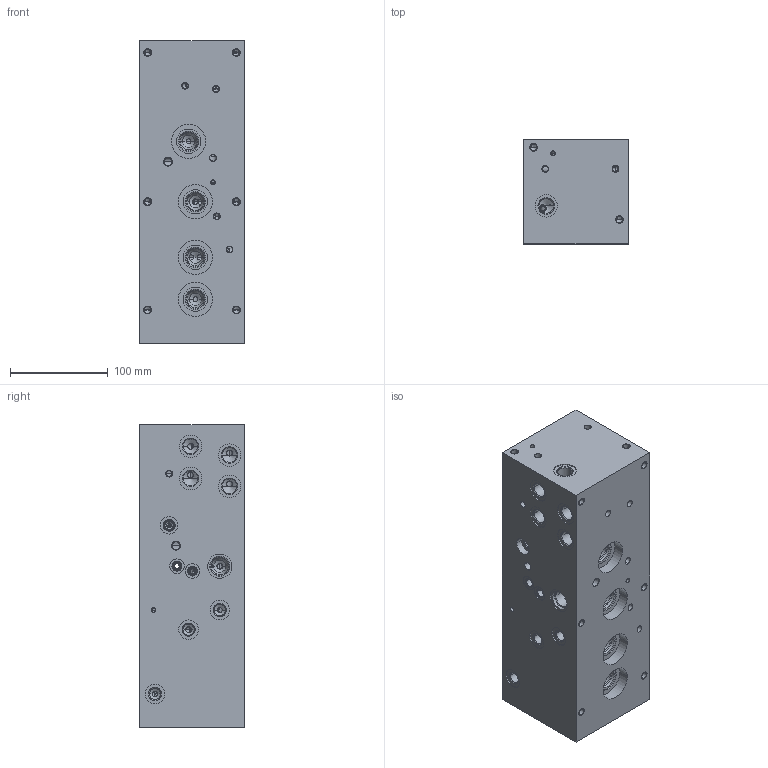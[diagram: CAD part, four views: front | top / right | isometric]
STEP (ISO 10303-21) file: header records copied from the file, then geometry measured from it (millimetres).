
FILE_DESCRIPTION((''),'2;1');
FILE_NAME('441341','2025-05-22T10:30:22',('PoolNonAdmin36220740'),(''),'CREO PARAMETRIC BY PTC INC, 2025010','CREO PARAMETRIC BY PTC INC, 2025010','');
FILE_SCHEMA(('AUTOMOTIVE_DESIGN { 1 0 10303 214 1 1 1 1 }'));
Products named in the file (1): 441341
Bounding box: 107 x 107 x 310 mm (x, y, z)
Volume: 3085279.2 mm3; surface area: 323000 mm2
Topology: 1 solids, 64 shells, 1252 faces, 4108 edges, 2963 vertices
Faces by surface type: cylinder 678, cone 454, plane 120
Entity records: 860250 total; most frequent: CARTESIAN_POINT 650427, POLYLINE 149603, DIRECTION 8638, ORIENTED_EDGE 5916, PRESENTATION_STYLE_ASSIGNMENT 5025, CURVE_STYLE 4840, STYLED_ITEM 4425, AXIS2_PLACEMENT_3D 3241
